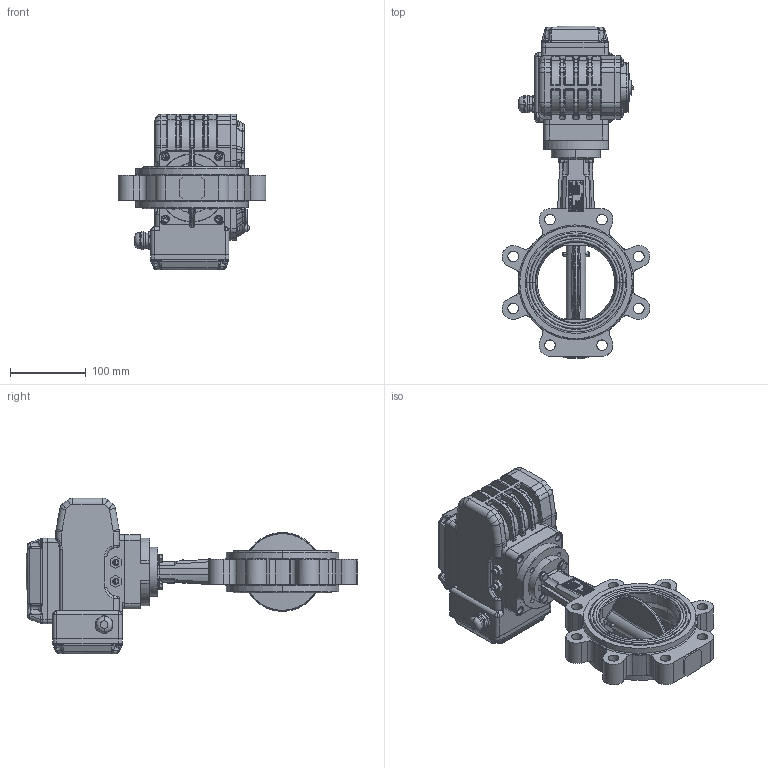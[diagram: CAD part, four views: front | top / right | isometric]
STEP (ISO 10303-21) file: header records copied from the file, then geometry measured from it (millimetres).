
FILE_DESCRIPTION (( 'STEP AP214' ), '1' );
FILE_NAME ('VPG464X-NX4XX0100.step', '2022-07-06T07:47:49', ( '' ), ( '' ), 'SwSTEP 2.0', 'SolidWorks 2020', '' );
FILE_SCHEMA (( 'AUTOMOTIVE_DESIGN' ));
Length unit declared in the file: millimetre
Products named in the file (1): VPG464X-NX4XX0100
Bounding box: 195.28 x 439.5 x 206.01 mm (x, y, z)
Surface area: 303199.1 mm2 (no closed solid volume)
Topology: 0 solids, 56 shells, 1476 faces, 6327 edges, 4850 vertices
Faces by surface type: cylinder 498, plane 435, bspline 420, cone 62, torus 61
Entity records: 113382 total; most frequent: CARTESIAN_POINT 51233, ORIENTED_EDGE 9482, DIRECTION 7532, EDGE_CURVE 6310, VERTEX_POINT 4850, LINE 2998, VECTOR 2998, AXIS2_PLACEMENT_3D 2267
